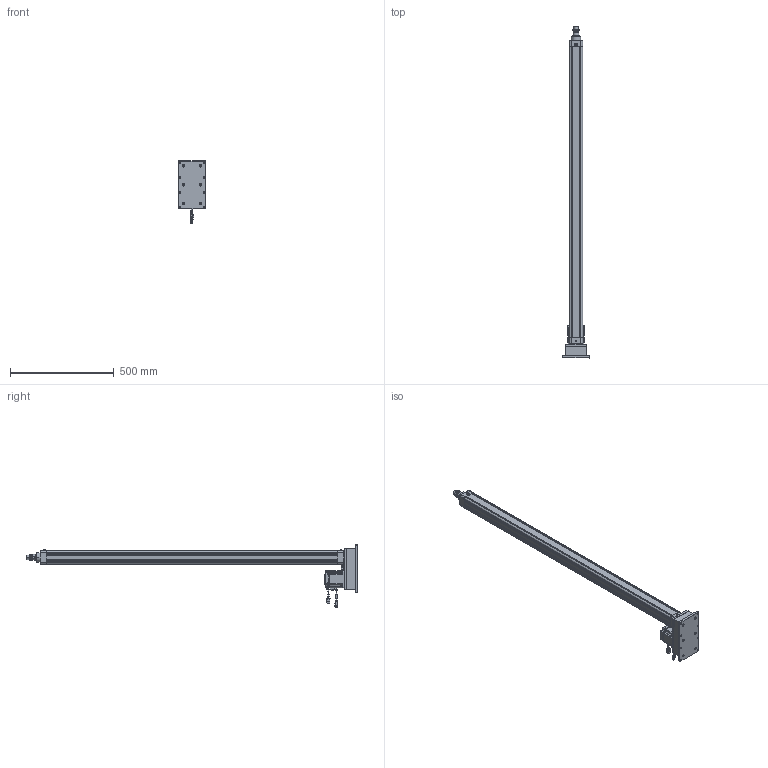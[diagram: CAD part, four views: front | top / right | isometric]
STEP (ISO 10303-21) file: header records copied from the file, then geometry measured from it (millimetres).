
FILE_DESCRIPTION((''),'2;1');
FILE_NAME('HE50-D-100-X1_ASM','2020-04-25T',('ASUS20200'),(''),'CREO PARAMETRIC BY PTC INC, 2014190','CREO PARAMETRIC BY PTC INC, 2014190','');
FILE_SCHEMA(('CONFIG_CONTROL_DESIGN'));
Length unit declared in the file: millimetre
Products named in the file (29): HE50-D-P-001-X1; HE50-D-P-002-X1; HE50-D-P-003-X1; 6301ZZ; LGLM-M8-22; SLM-01; YZ-M6X1; HE50-P-010-X1-400W; _MHMF082L1A2; _CABLE_MOTOR_BOTTOM_05; _CABLE_MOTOR_TOP_05; _MOTOR_CONNECTOR_2; _CABLE_BRAKE_BOTTOM_05; _CABLE_BRAKE_TOP_05; _MHMF_CONNECTOR_9_PIN_A6; MHMF082L1A2M2_1_ASM; TD-6; M6X25; LM-M6X1; JX6X6X20; M6X25-DS; LM-M6-15; HE50-P-012-X1; HE50-P-013-X1; M6X60; HE50-D-P-005-X1; HE50-D-P-004-X1; HE50-D-P-008-X1; HE50-D-100-X1_ASM
Assembly tree (50 placements, depth 3):
  HE50-D-100-X1_ASM
    HE50-D-P-001-X1
    HE50-D-P-002-X1
    HE50-D-P-003-X1
    6301ZZ
    LGLM-M8-22  x8
    SLM-01
    YZ-M6X1
    HE50-P-010-X1-400W
    MHMF082L1A2M2_1_ASM
      _MHMF082L1A2
      _CABLE_MOTOR_BOTTOM_05
      _CABLE_MOTOR_TOP_05
      _MOTOR_CONNECTOR_2
      _CABLE_BRAKE_BOTTOM_05
      _CABLE_BRAKE_TOP_05
      _MHMF_CONNECTOR_9_PIN_A6
    TD-6  x4
    M6X25  x4
    LM-M6X1  x5
    JX6X6X20
    M6X25-DS
    LM-M6-15
    HE50-P-012-X1
    HE50-P-013-X1
    M6X60  x6
    HE50-D-P-005-X1
    HE50-D-P-004-X1
    HE50-D-P-008-X1
Bounding box: 130 x 1598.5 x 298.65 mm (x, y, z)
Volume: 3936634.3 mm3; surface area: 1168487.3 mm2
Topology: 49 solids, 79 shells, 2744 faces, 6618 edges, 4119 vertices
Faces by surface type: plane 1159, cylinder 759, cone 643, torus 138, sphere 42, bspline 3
Entity records: 66241 total; most frequent: CARTESIAN_POINT 12515, DIRECTION 11811, ORIENTED_EDGE 10524, EDGE_CURVE 5312, AXIS2_PLACEMENT_3D 4431, VERTEX_POINT 3338, VECTOR 2949, LINE 2949
